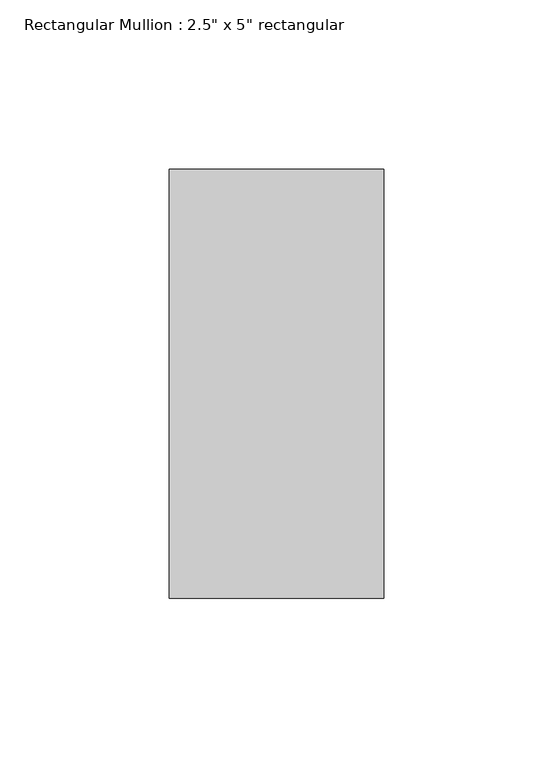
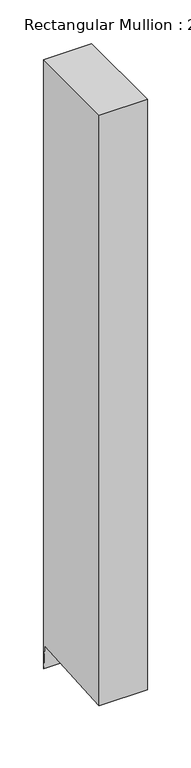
"""IFC4 building model written with IfcOpenShell, lengths in millimetres: member geometry."""

from ifc_helpers import new_model, si_unit, frame, origin, place, context, project, spatial, polyline, outline, extrude, source, transform, mapped, element, save


def member_bfce15ef(model_context):
    return source(origin(), model_context, "Body", "SweptSolid", [
        extrude(outline(polyline([(-63.5, 0.0), (63.5, 0.0), (63.5, -848.9346233), (61.4149606, -815.2837802), (-63.5, -823.0236342), (-63.5, 0.0)])), frame((-63.5, 0.0, 0.0), z_axis=(1.0, 0.0, 0.0), x_axis=(0.0, 1.0, 0.0)), (0.0, 0.0, 1.0), 63.5),
    ])


if __name__ == "__main__":
    model = new_model("IFC4")
    model_context = context("Model", 3, world=origin())
    ifc_project = project(units=[si_unit("LENGTHUNIT", "METRE", prefix="MILLI")], contexts=[model_context])
    site = spatial("IfcSite", under=ifc_project)
    building = spatial("IfcBuilding", under=site)
    placement = place(None, origin())
    member_shape = member_bfce15ef(model_context)
    element("IfcMember", 1, ObjectType="Rectangular Mullion : 2.5\" x 5\" rectangular", at=placement, inside=building, context=model_context, shape_type="MappedRepresentation", body=[
        mapped(member_shape, transform((0.0, 0.0, 0.0), x_axis=(1.0, 0.0, 0.0), y_axis=(0.0, 1.0, 0.0), z_axis=(0.0, 0.0, 1.0))),
    ])
    save(model, "model.ifc")
